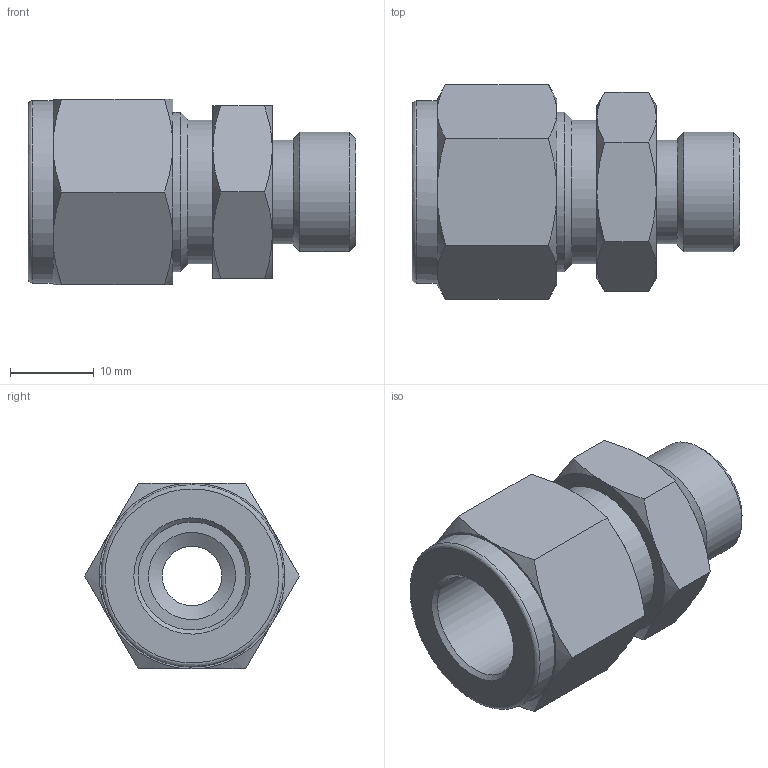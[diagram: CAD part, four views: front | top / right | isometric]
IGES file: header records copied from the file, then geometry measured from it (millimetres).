
Global section: file name: SSMC-8-6U; native system: Autodesk Inventor 2016; preprocessor: unknown; author: DESIGNPC2; date: 20160123.142916; units: millimetre
Bounding box: 39.2 x 25.66 x 22.23 mm (x, y, z)
Volume: 8713.3 mm3; surface area: 4764.8 mm2
Topology: 1 solids, 1 shells, 60 faces, 144 edges, 93 vertices
Faces by surface type: bspline 60
